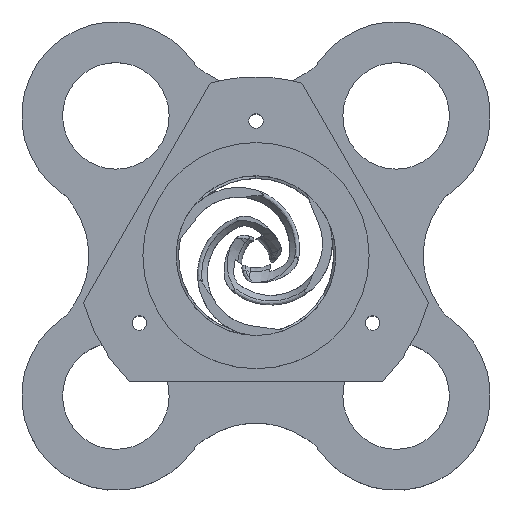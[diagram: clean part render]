
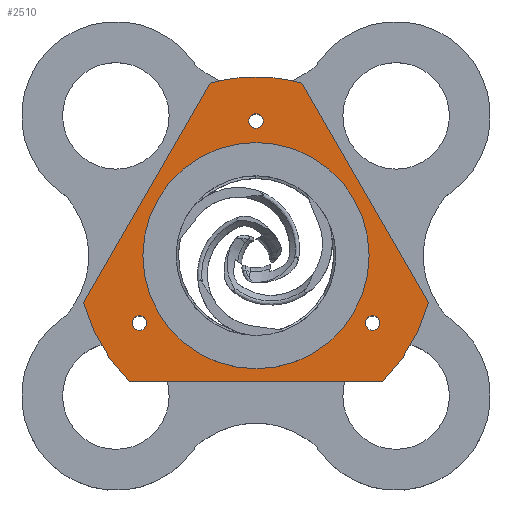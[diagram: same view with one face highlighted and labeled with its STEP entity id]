
A CAD part, top view. The second image highlights one B-rep face of the part: STEP entity #2510.
In plain terms, the highlighted planar face has unit normal (0, 0, 1).
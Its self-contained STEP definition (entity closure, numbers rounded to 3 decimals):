
#160=FACE_BOUND('',#491,.T.);
#161=FACE_BOUND('',#492,.T.);
#162=FACE_BOUND('',#493,.T.);
#163=FACE_BOUND('',#494,.T.);
#198=PLANE('',#2816);
#331=FACE_OUTER_BOUND('',#490,.T.);
#490=EDGE_LOOP('',(#2169,#2170,#2171,#2172,#2173,#2174,#2175,#2176));
#491=EDGE_LOOP('',(#2177));
#492=EDGE_LOOP('',(#2178));
#493=EDGE_LOOP('',(#2179));
#494=EDGE_LOOP('',(#2180));
#619=LINE('',#5024,#739);
#623=LINE('',#5036,#743);
#627=LINE('',#5048,#747);
#631=LINE('',#5058,#751);
#739=VECTOR('',#3471,10.);
#743=VECTOR('',#3483,10.);
#747=VECTOR('',#3495,10.);
#751=VECTOR('',#3507,10.);
#909=CIRCLE('',#2789,1.5);
#911=CIRCLE('',#2792,1.5);
#913=CIRCLE('',#2795,20.);
#915=CIRCLE('',#2798,1.5);
#918=CIRCLE('',#2802,36.9);
#920=CIRCLE('',#2806,36.9);
#922=CIRCLE('',#2810,36.9);
#924=CIRCLE('',#2814,36.9);
#1117=VERTEX_POINT('',#4988);
#1119=VERTEX_POINT('',#4994);
#1121=VERTEX_POINT('',#5000);
#1123=VERTEX_POINT('',#5006);
#1127=VERTEX_POINT('',#5015);
#1128=VERTEX_POINT('',#5017);
#1130=VERTEX_POINT('',#5023);
#1132=VERTEX_POINT('',#5029);
#1134=VERTEX_POINT('',#5035);
#1136=VERTEX_POINT('',#5041);
#1138=VERTEX_POINT('',#5047);
#1140=VERTEX_POINT('',#5053);
#1464=EDGE_CURVE('',#1117,#1117,#909,.T.);
#1467=EDGE_CURVE('',#1119,#1119,#911,.T.);
#1470=EDGE_CURVE('',#1121,#1121,#913,.T.);
#1473=EDGE_CURVE('',#1123,#1123,#915,.T.);
#1478=EDGE_CURVE('',#1128,#1127,#918,.T.);
#1481=EDGE_CURVE('',#1130,#1128,#619,.T.);
#1484=EDGE_CURVE('',#1132,#1130,#920,.T.);
#1487=EDGE_CURVE('',#1134,#1132,#623,.T.);
#1490=EDGE_CURVE('',#1136,#1134,#922,.T.);
#1493=EDGE_CURVE('',#1138,#1136,#627,.T.);
#1496=EDGE_CURVE('',#1140,#1138,#924,.T.);
#1499=EDGE_CURVE('',#1127,#1140,#631,.T.);
#2169=ORIENTED_EDGE('',*,*,#1499,.T.);
#2170=ORIENTED_EDGE('',*,*,#1496,.T.);
#2171=ORIENTED_EDGE('',*,*,#1493,.T.);
#2172=ORIENTED_EDGE('',*,*,#1490,.T.);
#2173=ORIENTED_EDGE('',*,*,#1487,.T.);
#2174=ORIENTED_EDGE('',*,*,#1484,.T.);
#2175=ORIENTED_EDGE('',*,*,#1481,.T.);
#2176=ORIENTED_EDGE('',*,*,#1478,.T.);
#2177=ORIENTED_EDGE('',*,*,#1473,.T.);
#2178=ORIENTED_EDGE('',*,*,#1470,.T.);
#2179=ORIENTED_EDGE('',*,*,#1467,.T.);
#2180=ORIENTED_EDGE('',*,*,#1464,.T.);
#2510=ADVANCED_FACE('',(#331,#160,#161,#162,#163),#198,.T.);
#2789=AXIS2_PLACEMENT_3D('',#4989,#3434,#3435);
#2792=AXIS2_PLACEMENT_3D('',#4995,#3441,#3442);
#2795=AXIS2_PLACEMENT_3D('',#5001,#3448,#3449);
#2798=AXIS2_PLACEMENT_3D('',#5007,#3455,#3456);
#2802=AXIS2_PLACEMENT_3D('',#5018,#3465,#3466);
#2806=AXIS2_PLACEMENT_3D('',#5030,#3477,#3478);
#2810=AXIS2_PLACEMENT_3D('',#5042,#3489,#3490);
#2814=AXIS2_PLACEMENT_3D('',#5054,#3501,#3502);
#2816=AXIS2_PLACEMENT_3D('',#5059,#3508,#3509);
#3434=DIRECTION('center_axis',(0.,0.,
-1.));
#3435=DIRECTION('ref_axis',(1.,0.,0.));
#3441=DIRECTION('center_axis',(0.,0.,
-1.));
#3442=DIRECTION('ref_axis',(1.,0.,0.));
#3448=DIRECTION('center_axis',(0.,0.,
-1.));
#3449=DIRECTION('ref_axis',(1.,0.,0.));
#3455=DIRECTION('center_axis',(0.,0.,
-1.));
#3456=DIRECTION('ref_axis',(1.,0.,0.));
#3465=DIRECTION('center_axis',(0.,0.,
1.));
#3466=DIRECTION('ref_axis',(1.,0.,0.));
#3471=DIRECTION('',(1.,0.,0.));
#3477=DIRECTION('center_axis',(0.,0.,
1.));
#3478=DIRECTION('ref_axis',(1.,0.,0.));
#3483=DIRECTION('',(-0.5,-0.866,0.));
#3489=DIRECTION('center_axis',(0.,0.,
1.));
#3490=DIRECTION('ref_axis',(1.,0.,0.));
#3495=DIRECTION('',(-1.,0.,0.));
#3501=DIRECTION('center_axis',(0.,0.,
1.));
#3502=DIRECTION('ref_axis',(1.,0.,0.));
#3507=DIRECTION('',(-0.5,0.866,0.));
#3508=DIRECTION('center_axis',(0.,0.,
1.));
#3509=DIRECTION('ref_axis',(1.,0.,0.));
#4988=CARTESIAN_POINT('',(632.086,602.493,61.927));
#4989=CARTESIAN_POINT('Origin',(633.586,602.493,61.927));
#4994=CARTESIAN_POINT('',(583.933,602.493,61.927));
#4995=CARTESIAN_POINT('Origin',(585.433,602.493,61.927));
#5000=CARTESIAN_POINT('',(589.51,616.394,61.927));
#5001=CARTESIAN_POINT('Origin',(609.51,616.394,61.927));
#5006=CARTESIAN_POINT('',(608.01,644.195,61.927));
#5007=CARTESIAN_POINT('Origin',(609.51,644.195,61.927));
#5015=CARTESIAN_POINT('',(645.138,606.791,61.927));
#5017=CARTESIAN_POINT('',(635.64,590.34,61.927));
#5018=CARTESIAN_POINT('Origin',(609.51,616.394,61.927));
#5023=CARTESIAN_POINT('',(583.379,590.34,61.927));
#5024=CARTESIAN_POINT('',(585.433,590.34,61.927));
#5029=CARTESIAN_POINT('',(573.881,606.791,61.927));
#5030=CARTESIAN_POINT('Origin',(609.51,616.394,61.927));
#5035=CARTESIAN_POINT('',(600.012,652.05,61.927));
#5036=CARTESIAN_POINT('',(598.985,650.271,61.927));
#5041=CARTESIAN_POINT('',(608.393,653.277,61.927));
#5042=CARTESIAN_POINT('Origin',(609.51,616.394,61.927));
#5047=CARTESIAN_POINT('',(610.627,653.277,61.927));
#5048=CARTESIAN_POINT('',(626.092,653.277,61.927));
#5053=CARTESIAN_POINT('',(619.008,652.05,61.927));
#5054=CARTESIAN_POINT('Origin',(609.51,616.394,61.927));
#5058=CARTESIAN_POINT('',(620.035,650.271,61.927));
#5059=CARTESIAN_POINT('Origin',(609.51,621.808,61.927));
